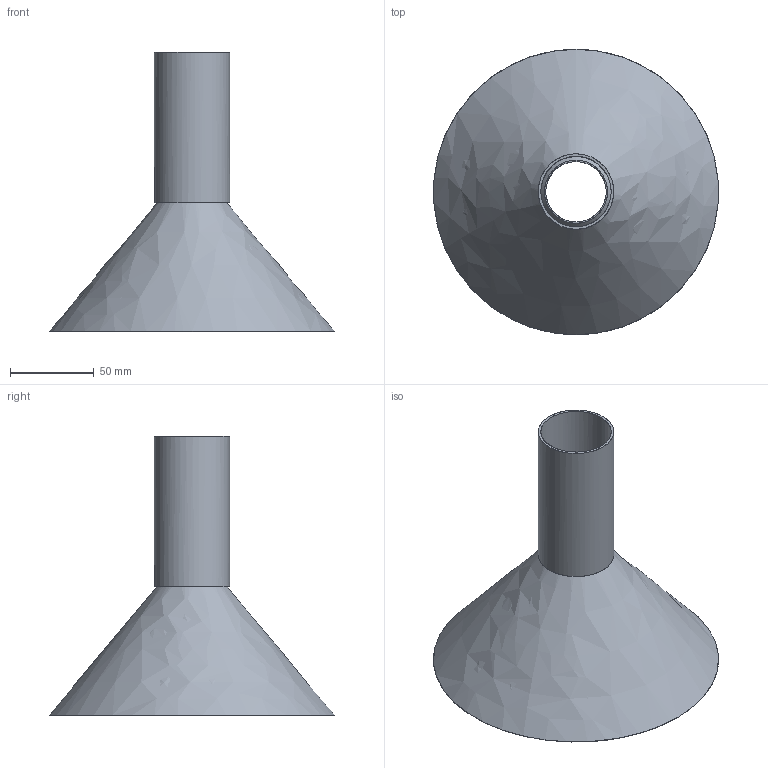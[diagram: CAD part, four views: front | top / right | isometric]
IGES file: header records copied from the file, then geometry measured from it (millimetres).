
Start section: SolidWorks IGES file using NURBS representation for surfaces
Global section: file name: Z:\Modele 3D_WWW\_CAMELEON\KLOSZE I OPRAWY WWW\HERMANOS-A-8034\CAMELEON-HERMANOS-A-8034.IGS; native system: SolidWorks 2021; preprocessor: SolidWorks 2021; author: gabriela.tworek; date: 220317.115138; units: millimetre
Bounding box: 169.94 x 170.39 x 167.15 mm (x, y, z)
Surface area: 94928.1 mm2 (no closed solid volume)
Topology: 0 solids, 0 shells, 12 faces, 57 edges, 48 vertices
Faces by surface type: bspline 12
